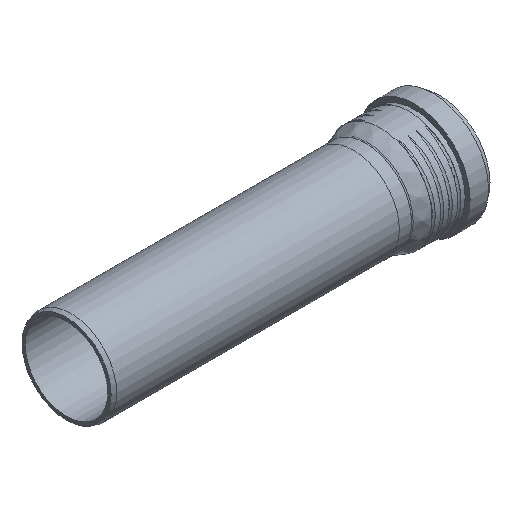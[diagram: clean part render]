
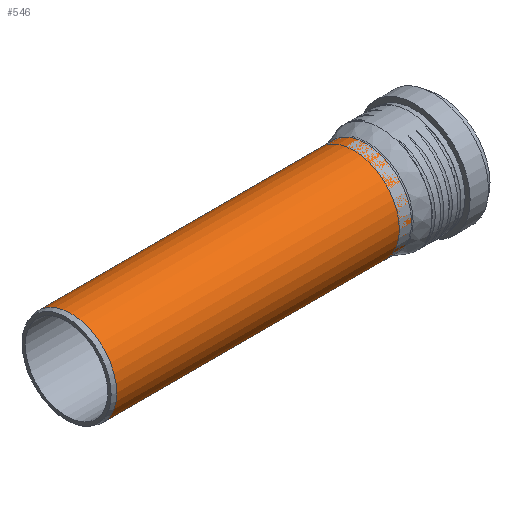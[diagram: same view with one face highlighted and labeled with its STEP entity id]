
A CAD part, isometric view. The second image highlights one B-rep face of the part: STEP entity #546.
In plain terms, the highlighted cylindrical face has radius 37.6 mm (diameter 75.2 mm), a full revolution.
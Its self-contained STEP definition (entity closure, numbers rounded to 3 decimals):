
#67=CYLINDRICAL_SURFACE('',#592,37.6);
#88=FACE_BOUND('',#158,.T.);
#122=FACE_OUTER_BOUND('',#157,.T.);
#157=EDGE_LOOP('',(#376));
#158=EDGE_LOOP('',(#377));
#221=CIRCLE('',#588,37.6);
#224=CIRCLE('',#593,37.6);
#250=VERTEX_POINT('',#786);
#253=VERTEX_POINT('',#794);
#307=EDGE_CURVE('',#250,#250,#221,.T.);
#310=EDGE_CURVE('',#253,#253,#224,.T.);
#376=ORIENTED_EDGE('',*,*,#310,.F.);
#377=ORIENTED_EDGE('',*,*,#307,.F.);
#546=ADVANCED_FACE('',(#122,#88),#67,.T.);
#588=AXIS2_PLACEMENT_3D('',#787,#656,#657);
#592=AXIS2_PLACEMENT_3D('',#793,#664,#665);
#593=AXIS2_PLACEMENT_3D('',#795,#666,#667);
#656=DIRECTION('center_axis',(-1.,0.,0.));
#657=DIRECTION('ref_axis',(0.,1.,0.));
#664=DIRECTION('center_axis',(1.,0.,0.));
#665=DIRECTION('ref_axis',(0.,1.,0.));
#666=DIRECTION('center_axis',(1.,0.,0.));
#667=DIRECTION('ref_axis',(0.,1.,0.));
#786=CARTESIAN_POINT('',(-119.75,-37.6,0.));
#787=CARTESIAN_POINT('Origin',(-119.75,0.,0.));
#793=CARTESIAN_POINT('Origin',(0.,0.,
0.));
#794=CARTESIAN_POINT('',(123.25,-37.6,0.));
#795=CARTESIAN_POINT('Origin',(123.25,0.,0.));
